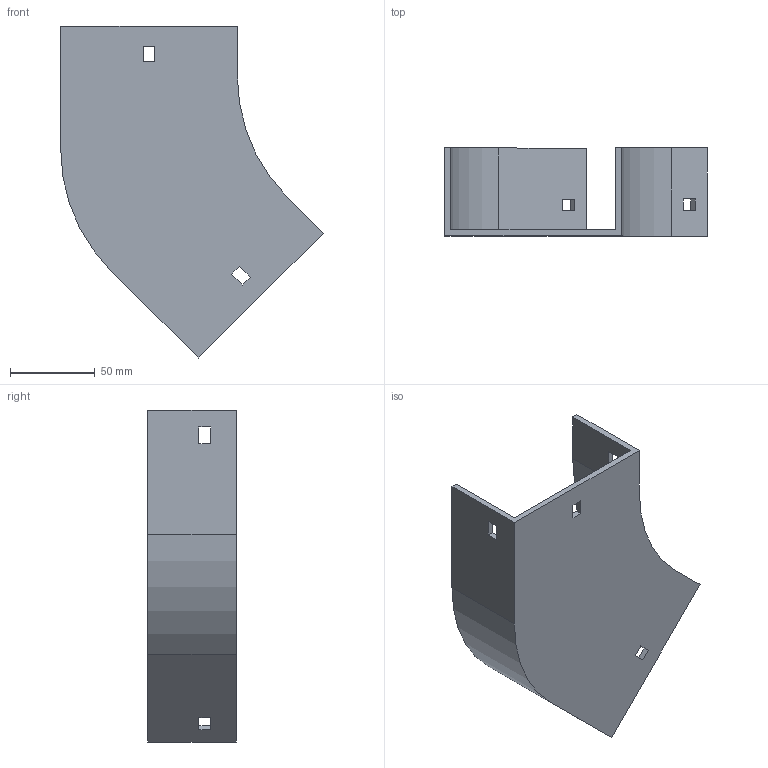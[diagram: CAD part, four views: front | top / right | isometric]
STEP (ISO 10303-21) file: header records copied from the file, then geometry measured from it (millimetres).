
FILE_DESCRIPTION (( 'STEP AP214' ), '1' );
FILE_NAME ('11F1B100.step', '2025-02-21T12:55:27', ( '' ), ( '' ), 'SwSTEP 2.0', 'SolidWorks 2023', '' );
FILE_SCHEMA (( 'AUTOMOTIVE_DESIGN' ));
Length unit declared in the file: millimetre
Products named in the file (1): 11F1B100
Bounding box: 154.5 x 52 x 195.46 mm (x, y, z)
Volume: 127945 mm3; surface area: 76482.8 mm2
Topology: 1 solids, 1 shells, 42 faces, 120 edges, 80 vertices
Faces by surface type: plane 38, cylinder 4
Entity records: 1399 total; most frequent: CARTESIAN_POINT 243, ORIENTED_EDGE 240, DIRECTION 214, EDGE_CURVE 120, VECTOR 112, LINE 112, VERTEX_POINT 80, EDGE_LOOP 54
